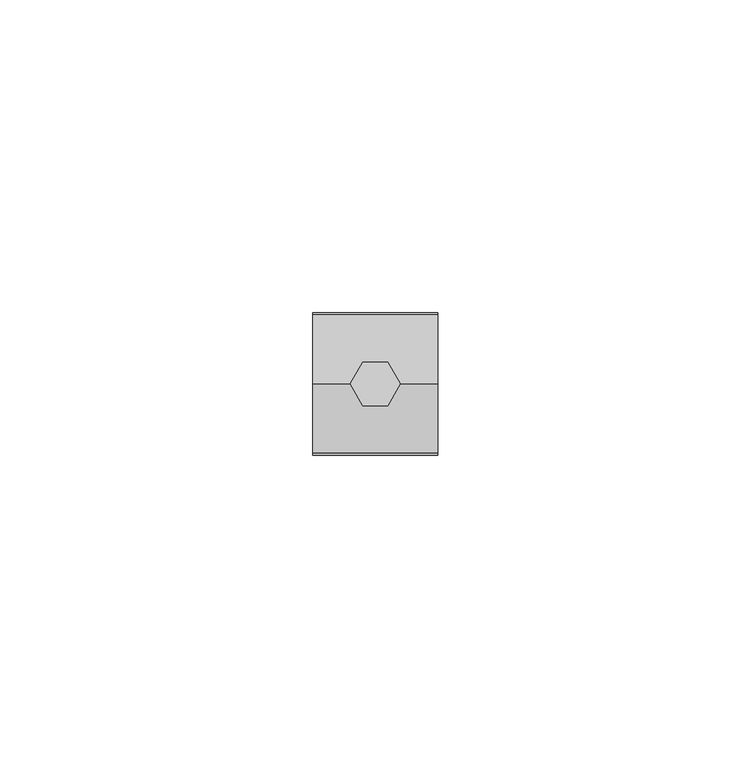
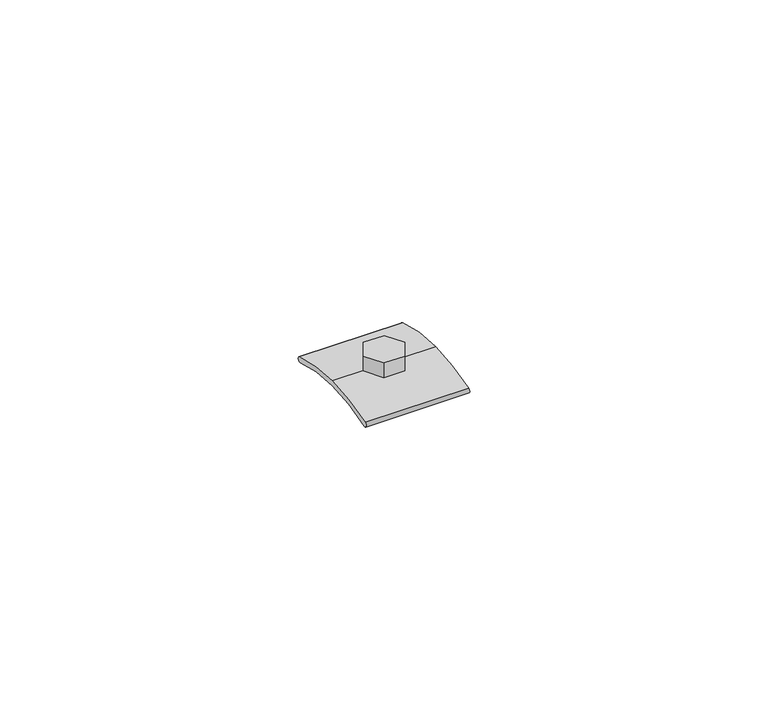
"""IFC4 building model written with IfcOpenShell, lengths in millimetres: beam geometry, 3D_Metalcraft Translucent Fixing_T-Rib : 3D_Metalcraft Translucent Fixing_T-Rib."""

import ifcopenshell
import ifcopenshell.guid

model = None  # the IFC model being written
_history = None  # IfcOwnerHistory: only IFC2X3 demands one
_inside = {}  # id of a spatial element -> (the spatial element, [elements in it])
_under = {}  # id of a project, library or spatial element -> (it, [spatial elements below it])
_declared = {}  # id of a project -> (the project, [libraries it declares])
_typed = {}  # id of a type object -> (the type object, [elements of that type])
_made_of = {}  # id of a material, layer set ... -> (it, [elements and type objects made of it])


def new_model(schema):
    """Start an empty IFC model of exactly this schema.

    Asked for "IFC4X3", IfcOpenShell would pick the latest addendum, in which some entities
    have other attributes; the version numbers below select the first issue.
    IFC2X3 requires an IfcOwnerHistory on every rooted entity: one is made here for all.
    """
    global model, _history
    if schema == "IFC4X3":
        model = ifcopenshell.file(schema_version=(4, 3, 0, 0))
    else:
        model = ifcopenshell.file(schema=schema)
    _inside.clear()
    _under.clear()
    _declared.clear()
    _typed.clear()
    _made_of.clear()
    _history = None
    if model.schema == "IFC2X3":
        org = make("IfcOrganization", Name="unknown")
        user = make(
            "IfcPersonAndOrganization",
            ThePerson=make("IfcPerson", FamilyName="unknown"),
            TheOrganization=org,
        )
        app = make(
            "IfcApplication",
            ApplicationDeveloper=org,
            Version="unknown",
            ApplicationFullName="unknown",
            ApplicationIdentifier="unknown",
        )
        _history = make(
            "IfcOwnerHistory",
            OwningUser=user,
            OwningApplication=app,
            ChangeAction="ADDED",
            CreationDate=0,
        )
    return model


def make(cls, **values):
    """One entity of the class cls with the attributes given. An attribute that is None is left unset."""
    return model.create_entity(
        cls, **{name: value for name, value in values.items() if value is not None}
    )


def rooted(cls, **values):
    """An entity with a GlobalId (a new one), such as an element, a storey or a relation."""
    return make(cls, GlobalId=ifcopenshell.guid.new(), OwnerHistory=_history, **values)


def si_unit(unit_type, name, prefix=None):
    """IfcSIUnit, for example si_unit("LENGTHUNIT", "METRE", prefix="MILLI")."""
    return make("IfcSIUnit", UnitType=unit_type, Prefix=prefix, Name=name)


def assignment(units):
    """IfcUnitAssignment: the units of a project."""
    return None if units is None else make("IfcUnitAssignment", Units=units)


def point(xyz):
    """IfcCartesianPoint."""
    return None if xyz is None else make("IfcCartesianPoint", Coordinates=xyz)


def direction(xyz):
    """IfcDirection."""
    return None if xyz is None else make("IfcDirection", DirectionRatios=xyz)


def frame(location, z_axis=None, x_axis=None):
    """IfcAxis2Placement3D, a coordinate frame: its origin and axes. An axis left out is left unset."""
    return make(
        "IfcAxis2Placement3D",
        Location=point(location),
        Axis=direction(z_axis),
        RefDirection=direction(x_axis),
    )


def frame_2d(location, x_axis=None):
    """IfcAxis2Placement2D, a coordinate frame in the plane: its origin and x axis."""
    return make(
        "IfcAxis2Placement2D", Location=point(location), RefDirection=direction(x_axis)
    )


def origin():
    """The frame at (0, 0, 0) with its axes left unset."""
    return frame((0.0, 0.0, 0.0))


def place(relative_to, where):
    """IfcLocalPlacement: puts the frame where relative to a parent placement (None: the world)."""
    return make(
        "IfcLocalPlacement", PlacementRelTo=relative_to, RelativePlacement=where
    )


def context(
    kind, dimensions, precision=None, world=None, true_north=None, identifier=None
):
    """IfcGeometricRepresentationContext, for example the 3D "Model" context."""
    return make(
        "IfcGeometricRepresentationContext",
        ContextIdentifier=identifier,
        ContextType=kind,
        CoordinateSpaceDimension=dimensions,
        Precision=precision,
        WorldCoordinateSystem=world,
        TrueNorth=true_north,
    )


def project(units=None, contexts=None):
    """IfcProject with its units and contexts."""
    return rooted(
        "IfcProject",
        Name="project",
        RepresentationContexts=contexts,
        UnitsInContext=assignment(units),
    )


def spatial(cls, under=None, at=None, **own):
    """A site, building, storey or space (cls), placed at a placement, below another one or the project."""
    s = rooted(cls, ObjectPlacement=at, **own)
    if under is not None:
        _under.setdefault(under.id(), (under, []))[1].append(s)
    return s


def polyline(points):
    """IfcPolyline through the points."""
    return make("IfcPolyline", Points=[point(p) for p in points])


def circle_curve(where, radius):
    """IfcCircle in the frame where."""
    return make("IfcCircle", Position=where, Radius=radius)


def trimmed(basis, trim1, trim2, sense, master):
    """IfcTrimmedCurve: the piece of a basis curve between two trims."""
    return make(
        "IfcTrimmedCurve",
        BasisCurve=basis,
        Trim1=trim1,
        Trim2=trim2,
        SenseAgreement=sense,
        MasterRepresentation=master,
    )


def segment(curve, same_sense, transition):
    """IfcCompositeCurveSegment."""
    return make(
        "IfcCompositeCurveSegment",
        Transition=transition,
        SameSense=same_sense,
        ParentCurve=curve,
    )


def composite_curve(segments, self_intersect=None):
    """IfcCompositeCurve: segments joined end to end."""
    return make("IfcCompositeCurve", Segments=segments, SelfIntersect=self_intersect)


def outline(outer, holes=None, kind="AREA"):
    """IfcArbitraryClosedProfileDef: a profile drawn as a closed curve; with holes, ...WithVoids."""
    if holes is None:
        return make("IfcArbitraryClosedProfileDef", ProfileType=kind, OuterCurve=outer)
    return make(
        "IfcArbitraryProfileDefWithVoids",
        ProfileType=kind,
        OuterCurve=outer,
        InnerCurves=holes,
    )


def extrude(swept, where, along, depth):
    """IfcExtrudedAreaSolid: the profile swept, set in the frame where, extruded along a direction by depth."""
    return make(
        "IfcExtrudedAreaSolid",
        SweptArea=swept,
        Position=where,
        ExtrudedDirection=direction(along),
        Depth=depth,
    )


def shape(context_of_items, identifier, shape_type, items):
    """IfcShapeRepresentation: the items that make up one representation, for example the "Body"."""
    return make(
        "IfcShapeRepresentation",
        ContextOfItems=context_of_items,
        RepresentationIdentifier=identifier,
        RepresentationType=shape_type,
        Items=items,
    )


def source(mapping_origin, context_of_items, identifier, shape_type, items):
    """IfcRepresentationMap: a shape defined once, which mapped items show again and again."""
    return make(
        "IfcRepresentationMap",
        MappingOrigin=mapping_origin,
        MappedRepresentation=shape(context_of_items, identifier, shape_type, items),
    )


def transform(
    local_origin,
    x_axis=None,
    y_axis=None,
    z_axis=None,
    scale=None,
    scale2=None,
    scale3=None,
    uniform=True,
):
    """IfcCartesianTransformationOperator3D, or its non-uniform kind. x_axis, y_axis, z_axis: its Axis1, 2, 3."""
    if uniform:
        return make(
            "IfcCartesianTransformationOperator3D",
            Axis1=direction(x_axis),
            Axis2=direction(y_axis),
            LocalOrigin=point(local_origin),
            Scale=scale,
            Axis3=direction(z_axis),
        )
    return make(
        "IfcCartesianTransformationOperator3DnonUniform",
        Axis1=direction(x_axis),
        Axis2=direction(y_axis),
        LocalOrigin=point(local_origin),
        Scale=scale,
        Axis3=direction(z_axis),
        Scale2=scale2,
        Scale3=scale3,
    )


def mapped(mapping_source, mapping_target):
    """IfcMappedItem: shows the shape of a source again, moved by a transform."""
    return make(
        "IfcMappedItem", MappingSource=mapping_source, MappingTarget=mapping_target
    )


def made_of(thing, what):
    """Note that an element or type object is made of a material, layer set ...; save() writes the relation."""
    if what is not None:
        _made_of.setdefault(what.id(), (what, []))[1].append(thing)
    return thing


def element(
    cls,
    number,
    at=None,
    inside=None,
    cuts=None,
    type_object=None,
    material=None,
    context=None,
    identifier="Body",
    shape_type=None,
    held_by="IfcProductDefinitionShape",
    body=None,
    shapes=None,
    **own,
):
    """One element of the class cls, such as IfcWall. Its Tag is "e" and its number.

    at: its placement. inside: the storey or other place that contains it. cuts: it is an
    opening in that element (IfcRelVoidsElement). A single representation is given by context,
    identifier, shape_type and body (its items); several are given by shapes. held_by: the class
    of the entity that holds the representations. save() writes the other relations.
    """
    e = rooted(cls, Tag="e%d" % number, ObjectPlacement=at, **own)
    if body is not None:
        shapes = [shape(context, identifier, shape_type, body)]
    if shapes is not None:
        e.Representation = make(held_by, Representations=shapes)
    if inside is not None:
        _inside.setdefault(inside.id(), (inside, []))[1].append(e)
    if cuts is not None:
        rooted(
            "IfcRelVoidsElement", RelatingBuildingElement=cuts, RelatedOpeningElement=e
        )
    if type_object is not None:
        _typed.setdefault(type_object.id(), (type_object, []))[1].append(e)
    return made_of(e, material)


def aggregate(whole, parts):
    """IfcRelAggregates: a whole, such as a stair, and the parts it consists of."""
    return rooted("IfcRelAggregates", RelatingObject=whole, RelatedObjects=parts)


def save(model, path):
    """Write the relations noted so far, then the file.

    IfcRelAggregates (storeys below a building ...), IfcRelContainedInSpatialStructure (elements
    in a storey), IfcRelDefinesByType, IfcRelAssociatesMaterial and IfcRelDeclares: one each for
    every whole, place, type object, material and project.
    """
    for whole, parts in _under.values():
        aggregate(whole, parts)
    for where, things in _inside.values():
        rooted(
            "IfcRelContainedInSpatialStructure",
            RelatedElements=things,
            RelatingStructure=where,
        )
    for kind, things in _typed.values():
        rooted("IfcRelDefinesByType", RelatedObjects=things, RelatingType=kind)
    for what, things in _made_of.values():
        rooted("IfcRelAssociatesMaterial", RelatedObjects=things, RelatingMaterial=what)
    for by, libraries in _declared.values():
        rooted("IfcRelDeclares", RelatingContext=by, RelatedDefinitions=libraries)
    model.write(path)


def beam_2c57848d(model_context):
    return source(origin(), model_context, "Body", "SweptSolid", [
        extrude(outline(polyline([(2.0, 3.4641016), (4.0, 0.0), (2.0, -3.4641016), (-2.0, -3.4641016), (-4.0, 0.0), (-2.0, 3.4641016), (2.0, 3.4641016)])), frame((0.0, 0.0, -25.7896475), z_axis=(0.0, 0.0, 1.0), x_axis=(1.0, 0.0, 0.0)), (0.0, 0.0, 1.0), 3.0),
        extrude(outline(composite_curve([segment(trimmed(circle_curve(frame_2d((-0.0059149, -60.8891872)), 34.0995402), [point((0.0, -26.7896475))], [point((-10.7269336, -28.5188551))], True, "CARTESIAN"), True, "CONTINUOUS"), segment(trimmed(circle_curve(frame_2d((-10.8841354, -28.0442104)), 0.5), [point((-10.7269336, -28.5188551))], [point((-11.0413372, -27.5695657))], False, "CARTESIAN"), True, "CONTINUOUS"), segment(trimmed(circle_curve(frame_2d((-0.0059149, -60.8891872)), 35.0995402), [point((-11.0413372, -27.5695657))], [point((0.0, -25.7896475))], False, "CARTESIAN"), True, "CONTINUOUS"), segment(trimmed(circle_curve(frame_2d((0.0059149, -60.8891872)), 35.0995402), [point((0.0, -25.7896475))], [point((11.0413372, -27.5695657))], False, "CARTESIAN"), True, "CONTINUOUS"), segment(trimmed(circle_curve(frame_2d((10.8841354, -28.0442104)), 0.5), [point((11.0413372, -27.5695657))], [point((10.7269336, -28.5188551))], False, "CARTESIAN"), True, "CONTINUOUS"), segment(trimmed(circle_curve(frame_2d((0.0059149, -60.8891872)), 34.0995402), [point((10.7269336, -28.5188551))], [point((0.0, -26.7896475))], True, "CARTESIAN"), True, "CONTINUOUS")], self_intersect=False)), frame((-10.003063, 0.0, 0.0), z_axis=(1.0, 0.0, 0.0), x_axis=(0.0, 1.0, 0.0)), (0.0, 0.0, 1.0), 20.0061261),
    ])


if __name__ == "__main__":
    model = new_model("IFC4")
    model_context = context("Model", 3, world=origin())
    ifc_project = project(units=[si_unit("LENGTHUNIT", "METRE", prefix="MILLI")], contexts=[model_context])
    site = spatial("IfcSite", under=ifc_project)
    building = spatial("IfcBuilding", under=site)
    placement = place(None, origin())
    beam_shape = beam_2c57848d(model_context)
    element("IfcBeam", 1, ObjectType="3D_Metalcraft Translucent Fixing_T-Rib : 3D_Metalcraft Translucent Fixing_T-Rib", at=placement, inside=building, context=model_context, shape_type="MappedRepresentation", body=[
        mapped(beam_shape, transform((0.0, 0.0, 0.0), x_axis=(1.0, 0.0, 0.0), y_axis=(0.0, 1.0, 0.0), z_axis=(0.0, 0.0, 1.0))),
    ])
    save(model, "model.ifc")
